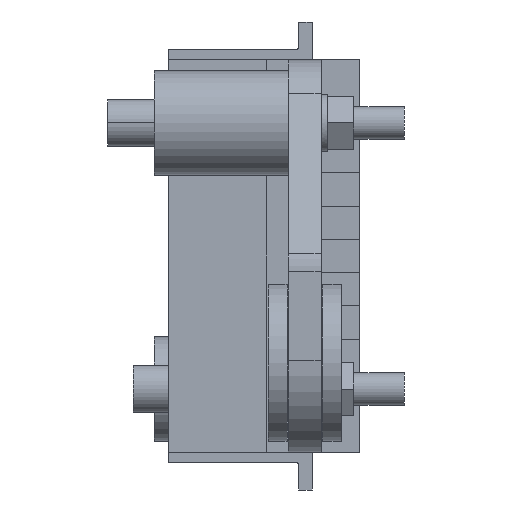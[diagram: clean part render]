
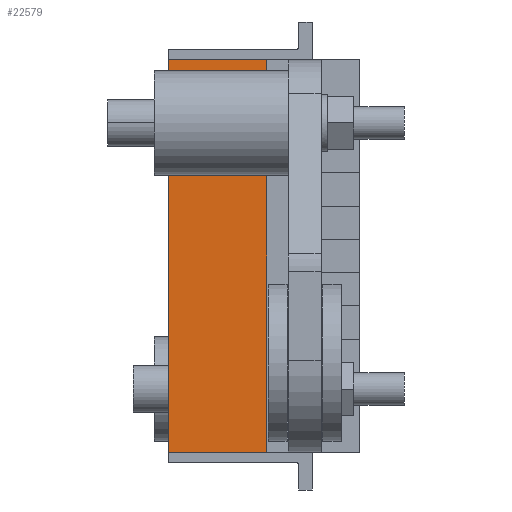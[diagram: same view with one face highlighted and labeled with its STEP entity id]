
A CAD part, left-side view. The second image highlights one B-rep face of the part: STEP entity #22579.
In plain terms, the highlighted planar face has unit normal (-1, 0, 0).
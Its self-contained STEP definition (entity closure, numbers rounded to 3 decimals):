
#2047 = CARTESIAN_POINT ( 'NONE',  ( -6.35, 5.475, -14.99 ) ) ;
#2096 = PLANE ( 'NONE',  #51339 ) ;
#5914 = ORIENTED_EDGE ( 'NONE', *, *, #23271, .T. ) ;
#9513 = DIRECTION ( 'NONE',  ( 0., 0., -1. ) ) ;
#9546 = VECTOR ( 'NONE', #26082, 1000. ) ;
#11321 = EDGE_CURVE ( 'NONE', #40757, #24809, #14023, .T. ) ;
#12118 = CARTESIAN_POINT ( 'NONE',  ( -6.35, 5.475, 14.99 ) ) ;
#12767 = EDGE_CURVE ( 'NONE', #37601, #24809, #24703, .T. ) ;
#12838 = CARTESIAN_POINT ( 'NONE',  ( -6.35, -2.025, 14.99 ) ) ;
#14023 = LINE ( 'NONE', #2047, #38556 ) ;
#19356 = EDGE_CURVE ( 'NONE', #44192, #37601, #46424, .T. ) ;
#20937 = EDGE_LOOP ( 'NONE', ( #28586, #20944, #47129, #5914 ) ) ;
#20944 = ORIENTED_EDGE ( 'NONE', *, *, #12767, .F. ) ;
#22570 = DIRECTION ( 'NONE',  ( 0., 0., -1. ) ) ;
#22579 = ADVANCED_FACE ( 'NONE', ( #58661 ), #2096, .F. ) ;
#23271 = EDGE_CURVE ( 'NONE', #44192, #40757, #40421, .T. ) ;
#24703 = LINE ( 'NONE', #37200, #49271 ) ;
#24809 = VERTEX_POINT ( 'NONE', #54640 ) ;
#25320 = DIRECTION ( 'NONE',  ( 1., 0., 0. ) ) ;
#26082 = DIRECTION ( 'NONE',  ( 0., -1., 0. ) ) ;
#26741 = VECTOR ( 'NONE', #22570, 1000. ) ;
#27868 = CARTESIAN_POINT ( 'NONE',  ( -6.35, 5.475, -14.99 ) ) ;
#28502 = CARTESIAN_POINT ( 'NONE',  ( -6.35, 5.475, 14.99 ) ) ;
#28586 = ORIENTED_EDGE ( 'NONE', *, *, #11321, .T. ) ;
#33692 = DIRECTION ( 'NONE',  ( 0., -1., 0. ) ) ;
#37200 = CARTESIAN_POINT ( 'NONE',  ( -6.35, -2.025, 14.99 ) ) ;
#37601 = VERTEX_POINT ( 'NONE', #12838 ) ;
#38556 = VECTOR ( 'NONE', #33692, 1000. ) ;
#40421 = LINE ( 'NONE', #45596, #26741 ) ;
#40757 = VERTEX_POINT ( 'NONE', #27868 ) ;
#44192 = VERTEX_POINT ( 'NONE', #28502 ) ;
#45596 = CARTESIAN_POINT ( 'NONE',  ( -6.35, 5.475, 14.99 ) ) ;
#46424 = LINE ( 'NONE', #12118, #9546 ) ;
#47129 = ORIENTED_EDGE ( 'NONE', *, *, #19356, .F. ) ;
#49271 = VECTOR ( 'NONE', #9513, 1000. ) ;
#51339 = AXIS2_PLACEMENT_3D ( 'NONE', #52980, #25320, #57694 ) ;
#52980 = CARTESIAN_POINT ( 'NONE',  ( -6.35, 5.475, 14.99 ) ) ;
#54640 = CARTESIAN_POINT ( 'NONE',  ( -6.35, -2.025, -14.99 ) ) ;
#57694 = DIRECTION ( 'NONE',  ( 0., 1., 0. ) ) ;
#58661 = FACE_OUTER_BOUND ( 'NONE', #20937, .T. ) ;
